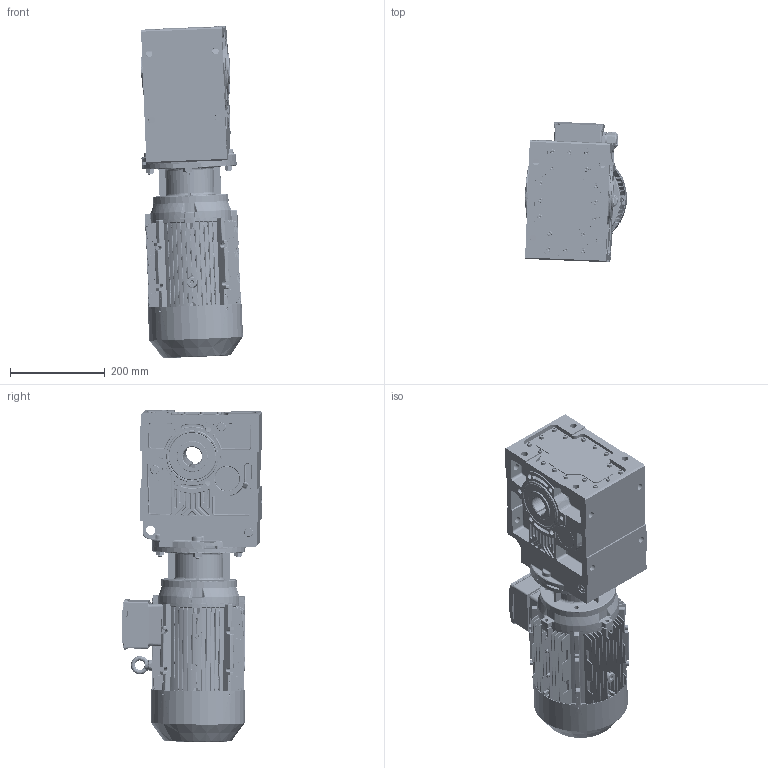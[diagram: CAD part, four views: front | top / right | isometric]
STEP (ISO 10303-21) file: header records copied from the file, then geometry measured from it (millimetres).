
FILE_DESCRIPTION (( 'STEP AP203' ), '1' );
FILE_NAME ('KV_373_0_MX3-100.STEP', '2018-11-21T10:45:18', ( '' ), ( '' ), 'SwSTEP 2.0', 'SolidWorks 2012', '' );
FILE_SCHEMA (( 'CONFIG_CONTROL_DESIGN' ));
Products named in the file (16): MX3-100L_B14; IE3 100 B14 flange; KV_373_0_MX3-100; IE3 100 fan; IE3 100 shaft cover; plain parallel keys_GB_CONNECTING_PIECE_KEYS_CSK 8X50; IE3 100 fan cover; eyebolts gb_GB_FASTENER_SCREWS_FRS M8-N; IE3 100 Shaft; IE3 100 terminal box base; IE3 100 terminal box cover; IE3 100 casing; ML57A_Varsayìlan; IE3 100 B3 Shield; K373_Varsayìlan; 33100B14_Varsayìlan
Assembly tree (16 placements, depth 3):
  KV_373_0_MX3-100
    K373_Varsayìlan
    33100B14_Varsayìlan
    ML57A_Varsayìlan
    MX3-100L_B14
      IE3 100 casing
      IE3 100 B3 Shield
      IE3 100 Shaft
      eyebolts gb_GB_FASTENER_SCREWS_FRS M8-N
      IE3 100 terminal box base
      IE3 100 terminal box cover
      IE3 100 fan
      IE3 100 fan cover
      plain parallel keys_GB_CONNECTING_PIECE_KEYS_CSK 8X50
      IE3 100 shaft cover  x2
      IE3 100 B14 flange
Bounding box: 214.9 x 296.62 x 699.69 mm (x, y, z)
Volume: 12328353.9 mm3; surface area: 1726478.5 mm2
Topology: 16 solids, 18 shells, 6632 faces, 16933 edges, 10329 vertices
Faces by surface type: plane 2149, bspline 1729, cylinder 1640, cone 538, torus 453, sphere 123
Entity records: 269410 total; most frequent: CARTESIAN_POINT 123117, ORIENTED_EDGE 33118, DIRECTION 26090, EDGE_CURVE 16559, VERTEX_POINT 10215, AXIS2_PLACEMENT_3D 9535, EDGE_LOOP 7134, VECTOR 7020
